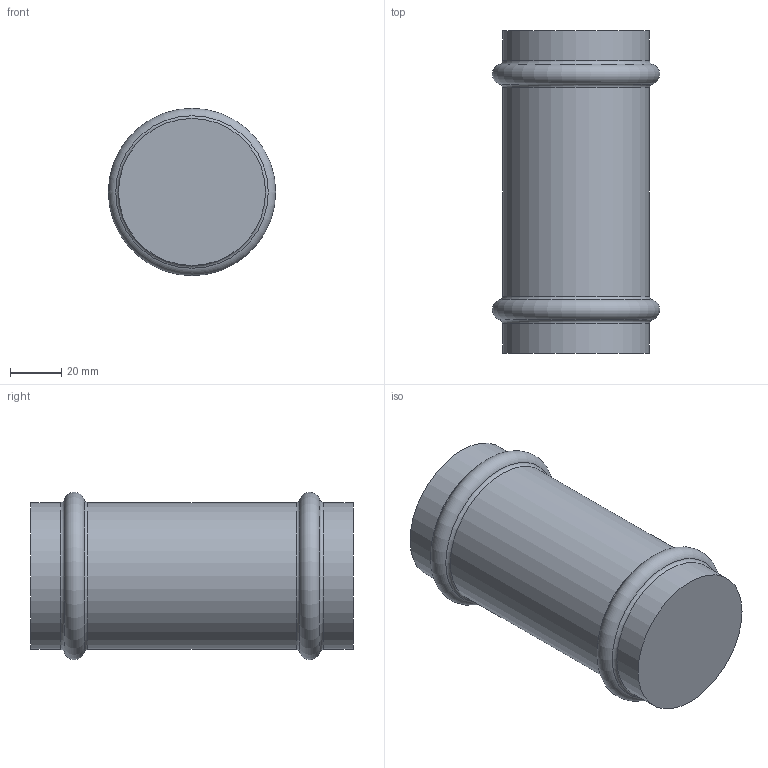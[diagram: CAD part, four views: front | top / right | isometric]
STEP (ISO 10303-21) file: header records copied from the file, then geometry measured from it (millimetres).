
FILE_DESCRIPTION(('STEP AP203'), '1');
FILE_NAME('VTi.904.I.005454', '', ('UNSPECIFIED'), ('UNSPECIFIED'), 'C3D Converter', 'C3D Toolkit', '');
FILE_SCHEMA(('CONFIG_CONTROL_DESIGN'));
Length unit declared in the file: millimetre
Bounding box: 65.4 x 126 x 65.4 mm (x, y, z)
Volume: 335870.4 mm3; surface area: 29621.3 mm2
Topology: 1 solids, 1 shells, 11 faces, 19 edges, 10 vertices
Faces by surface type: torus 6, cylinder 3, plane 2
Full cylindrical faces by diameter (mm): 57.4 x3
Entity records: 254 total; most frequent: DIRECTION 44, CARTESIAN_POINT 32, AXIS2_PLACEMENT_3D 22, EDGE_LOOP 20, ORIENTED_EDGE 20, FACE_OUTER_BOUND 18, ADVANCED_FACE 11, EDGE_CURVE 10
